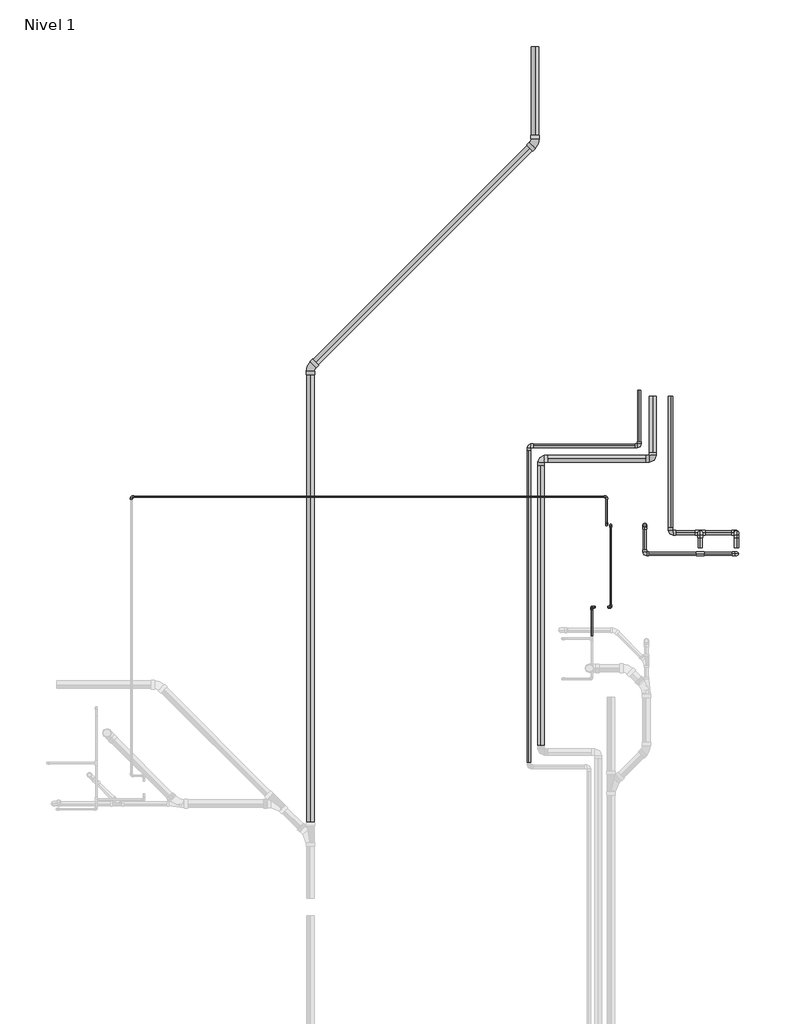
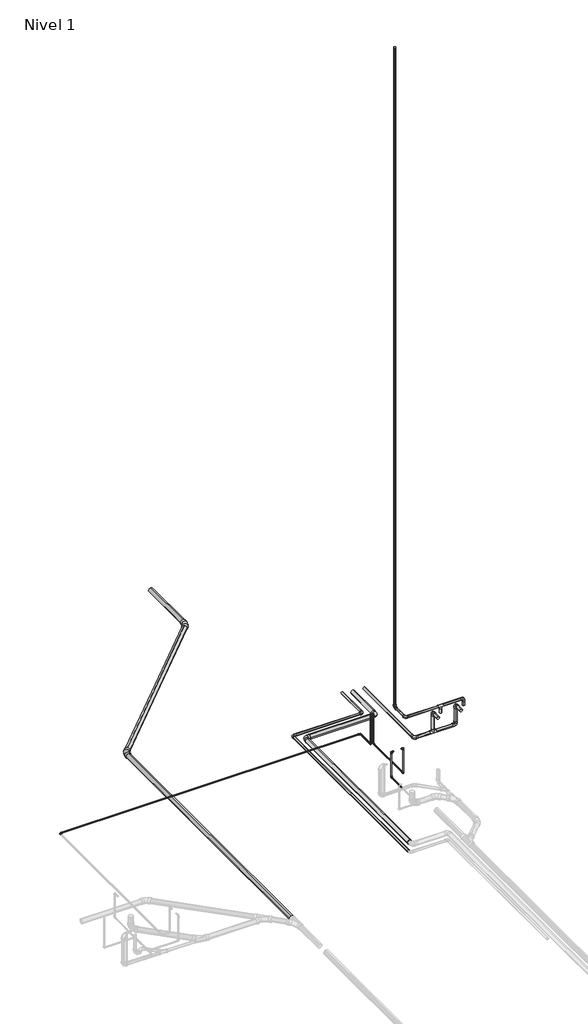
# One storey, part 3 of 3: 32 pipe segments, 23 pipe fittings.
"""IFC4 building model written with IfcOpenShell, lengths in millimetres."""

from ifc_helpers import new_model, si_unit, point, frame, frame_2d, origin, place, context, project, spatial, circle_curve, trimmed, segment, composite_curve, outline, extrude, transform, mapped, element, save
from components import pipe_fitting_be15212e, pipe_fitting_e417bdfe, m_codo_pvc_serie_40_457dd693, m_codo_pvc_serie_40_9ad74631, m_codo_pvc_serie_40_6fb5ae01, m_codo_pvc_serie_40_d13c4332, m_codo_pvc_serie_40_dwv1_9a7ca077

model = new_model("IFC4")

# Units and contexts
model_context = context("Model", 3, world=origin())
ifc_project = project(units=[si_unit("LENGTHUNIT", "METRE", prefix="MILLI")], contexts=[model_context])

# Site, building, storey
site = spatial("IfcSite", under=ifc_project)
building = spatial("IfcBuilding", under=site)
storey = spatial("IfcBuildingStorey", under=building, Name="Nivel 1", Elevation=0.0)

# Pipe fittings
placement = place(None, origin())
pipe_fitting_shape = pipe_fitting_be15212e(model_context)
element("IfcPipeFitting", 1, ObjectType="M_Te - PVC - Serie 40 : Estándar", at=placement, inside=storey, context=model_context, shape_type="MappedRepresentation", body=[
    mapped(pipe_fitting_shape, transform((8230.6425739, 9293.5650289, -300.0), x_axis=(-1.0, 0.0, 0.0), y_axis=(0.0, 0.0, -1.0), z_axis=(0.0, -1.0, 0.0))),
])
pipe_fitting_2_shape = pipe_fitting_e417bdfe(model_context)
element("IfcPipeFitting", 2, ObjectType="M_Te - PVC - Serie 40 : Estándar", at=placement, inside=storey, context=model_context, shape_type="MappedRepresentation", body=[
    mapped(pipe_fitting_2_shape, transform((8230.6425739, 8994.3211489, 500.0), x_axis=(-1.0, 0.0, 0.0), y_axis=(0.0, 0.0, 1.0), z_axis=(0.0, 1.0, 0.0))),
])
m_codo_pvc_serie_40_shape = m_codo_pvc_serie_40_457dd693(model_context)
element("IfcPipeFitting", 3, ObjectType="M_Codo - PVC - Serie 40 : Estándar", at=placement, inside=storey, context=model_context, shape_type="MappedRepresentation", body=[
    mapped(m_codo_pvc_serie_40_shape, transform((5776.38473, 10540.1540755, -300.0), x_axis=(-1.0, 0.0, 0.0), y_axis=(0.0, -1.0, 0.0), z_axis=(0.0, 0.0, 1.0))),
])
element("IfcPipeFitting", 4, ObjectType="M_Codo - PVC - Serie 40 : Estándar", at=placement, inside=storey, context=model_context, shape_type="MappedRepresentation", body=[
    mapped(m_codo_pvc_serie_40_shape, transform((7356.38473, 10540.1540755, -300.0), x_axis=(1.0, 0.0, 0.0), y_axis=(0.0, 1.0, 0.0), z_axis=(0.0, 0.0, 1.0))),
])
element("IfcPipeFitting", 5, ObjectType="M_Codo - PVC - Serie 40 : Estándar", at=placement, inside=storey, context=model_context, shape_type="MappedRepresentation", body=[
    mapped(m_codo_pvc_serie_40_shape, transform((8750.6425739, 8994.3211489, 500.0), x_axis=(0.0, 0.0, 1.0), y_axis=(-1.0, 0.0, 0.0), z_axis=(0.0, -1.0, 0.0))),
])
element("IfcPipeFitting", 6, ObjectType="M_Codo - PVC - Serie 40 : Estándar", at=placement, inside=storey, context=model_context, shape_type="MappedRepresentation", body=[
    mapped(m_codo_pvc_serie_40_shape, transform((7434.7824177, 8994.3211489, 500.0), x_axis=(0.0, -1.0, 0.0), y_axis=(1.0, 0.0, 0.0), z_axis=(0.0, 0.0, 1.0))),
])
element("IfcPipeFitting", 7, ObjectType="M_Codo - PVC - Serie 40 : Estándar", at=placement, inside=storey, context=model_context, shape_type="MappedRepresentation", body=[
    mapped(m_codo_pvc_serie_40_shape, transform((7434.7824177, 9406.2791808, 500.0), x_axis=(0.0, 1.0, 0.0), y_axis=(0.0, 0.0, 1.0), z_axis=(1.0, 0.0, 0.0))),
])
m_codo_pvc_serie_40_2_shape = m_codo_pvc_serie_40_9ad74631(model_context)
element("IfcPipeFitting", 8, ObjectType="M_Codo - PVC - Serie 40 : Estándar", at=placement, inside=storey, context=model_context, shape_type="MappedRepresentation", body=[
    mapped(m_codo_pvc_serie_40_2_shape, transform((6677.8782795, 8229.2883591, -200.0), x_axis=(0.0, 1.0, 0.0), y_axis=(0.0, 0.0, 1.0), z_axis=(1.0, 0.0, 0.0))),
])
element("IfcPipeFitting", 9, ObjectType="M_Codo - PVC - Serie 40 : Estándar", at=placement, inside=storey, context=model_context, shape_type="MappedRepresentation", body=[
    mapped(m_codo_pvc_serie_40_2_shape, transform((6677.8782795, 8229.2883591, 400.0), x_axis=(0.0, 0.0, 1.0), y_axis=(1.0, 0.0, 0.0), z_axis=(0.0, 1.0, 0.0))),
])
element("IfcPipeFitting", 10, ObjectType="M_Codo - PVC - Serie 40 : Estándar", at=placement, inside=storey, context=model_context, shape_type="MappedRepresentation", body=[
    mapped(m_codo_pvc_serie_40_2_shape, transform((6947.8782795, 8229.2883591, 400.0), x_axis=(1.0, 0.0, 0.0), y_axis=(0.0, 0.0, -1.0), z_axis=(0.0, 1.0, 0.0))),
])
element("IfcPipeFitting", 11, ObjectType="M_Codo - PVC - Serie 40 : Estándar", at=placement, inside=storey, context=model_context, shape_type="MappedRepresentation", body=[
    mapped(m_codo_pvc_serie_40_2_shape, transform((6947.8782795, 8229.2883591, -200.0), x_axis=(0.0, 0.0, -1.0), y_axis=(0.0, 1.0, 0.0), z_axis=(1.0, 0.0, 0.0))),
])
element("IfcPipeFitting", 12, ObjectType="M_Codo - PVC - Serie 40 : Estándar", at=placement, inside=storey, context=model_context, shape_type="MappedRepresentation", body=[
    mapped(m_codo_pvc_serie_40_2_shape, transform((80.4324714, 9811.2791808, -200.0), x_axis=(-1.0, 0.0, 0.0), y_axis=(0.0, -1.0, 0.0), z_axis=(0.0, 0.0, 1.0))),
])
element("IfcPipeFitting", 13, ObjectType="M_Codo - PVC - Serie 40 : Estándar", at=placement, inside=storey, context=model_context, shape_type="MappedRepresentation", body=[
    mapped(m_codo_pvc_serie_40_2_shape, transform((6888.634697, 9811.2791808, -200.0), x_axis=(0.0, 1.0, 0.0), y_axis=(-1.0, 0.0, 0.0), z_axis=(0.0, 0.0, 1.0))),
])
element("IfcPipeFitting", 14, ObjectType="M_Codo - PVC - Serie 40 : Estándar", at=placement, inside=storey, context=model_context, shape_type="MappedRepresentation", body=[
    mapped(m_codo_pvc_serie_40_2_shape, transform((6888.634697, 9406.2791808, -200.0), x_axis=(0.0, -1.0, 0.0), y_axis=(0.0, 0.0, 1.0), z_axis=(-1.0, 0.0, 0.0))),
])
element("IfcPipeFitting", 15, ObjectType="M_Codo - PVC - Serie 40 : Estándar", at=placement, inside=storey, context=model_context, shape_type="MappedRepresentation", body=[
    mapped(m_codo_pvc_serie_40_2_shape, transform((6947.8782795, 9409.2883591, -200.0), x_axis=(0.0, 1.0, 0.0), y_axis=(0.0, 0.0, 1.0), z_axis=(1.0, 0.0, 0.0))),
])
m_codo_pvc_serie_40_3_shape = m_codo_pvc_serie_40_6fb5ae01(model_context)
element("IfcPipeFitting", 16, ObjectType="M_Codo - PVC - Serie 40 : Estándar", at=placement, inside=storey, context=model_context, shape_type="MappedRepresentation", body=[
    mapped(m_codo_pvc_serie_40_3_shape, transform((5948.0875801, 10353.5650289, -300.0), x_axis=(-1.0, 0.0, 0.0), y_axis=(0.0, -1.0, 0.0), z_axis=(0.0, 0.0, 1.0))),
])
element("IfcPipeFitting", 17, ObjectType="M_Codo - PVC - Serie 40 : Estándar", at=placement, inside=storey, context=model_context, shape_type="MappedRepresentation", body=[
    mapped(m_codo_pvc_serie_40_3_shape, transform((7548.0875801, 10353.5650289, -300.0), x_axis=(1.0, 0.0, 0.0), y_axis=(0.0, 1.0, 0.0), z_axis=(0.0, 0.0, 1.0))),
])
m_codo_pvc_serie_40_4_shape = m_codo_pvc_serie_40_d13c4332(model_context)
element("IfcPipeFitting", 18, ObjectType="M_Codo - PVC - Serie 40 : Estándar", at=placement, inside=storey, context=model_context, shape_type="MappedRepresentation", body=[
    mapped(m_codo_pvc_serie_40_4_shape, transform((7804.8108187, 9293.5650289, -300.0), x_axis=(0.0, -1.0, 0.0), y_axis=(1.0, 0.0, 0.0), z_axis=(0.0, 0.0, 1.0))),
])
element("IfcPipeFitting", 19, ObjectType="M_Codo - PVC - Serie 40 : Estándar", at=placement, inside=storey, context=model_context, shape_type="MappedRepresentation", body=[
    mapped(m_codo_pvc_serie_40_4_shape, transform((8230.6425739, 9293.5650289, 159.6492087), x_axis=(0.0, 0.0, 1.0), y_axis=(0.0, -1.0, 0.0), z_axis=(1.0, 0.0, 0.0))),
])
element("IfcPipeFitting", 20, ObjectType="M_Codo - PVC - Serie 40 : Estándar", at=placement, inside=storey, context=model_context, shape_type="MappedRepresentation", body=[
    mapped(m_codo_pvc_serie_40_4_shape, transform((8750.6425739, 9293.5650289, -300.0), x_axis=(0.0, 0.0, -1.0), y_axis=(-1.0, 0.0, 0.0), z_axis=(0.0, 1.0, 0.0))),
])
element("IfcPipeFitting", 21, ObjectType="M_Codo - PVC - Serie 40 : Estándar", at=placement, inside=storey, context=model_context, shape_type="MappedRepresentation", body=[
    mapped(m_codo_pvc_serie_40_4_shape, transform((8750.6425739, 9293.5650289, 159.6492087), x_axis=(0.0, 1.0, 0.0), y_axis=(0.0, 0.0, -1.0), z_axis=(-1.0, 0.0, 0.0))),
])
m_codo_pvc_serie_40_dwv1_shape = m_codo_pvc_serie_40_dwv1_9a7ca077(model_context)
element("IfcPipeFitting", 22, ObjectType="M_Codo - PVC - Serie 40 - DWV1 : Estándar 2", at=placement, inside=storey, context=model_context, shape_type="MappedRepresentation", body=[
    mapped(m_codo_pvc_serie_40_dwv1_shape, transform((5863.1438745, 14883.3960274, -300.0), x_axis=(0.7071067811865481, 0.707106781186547, 0.0), y_axis=(-0.707106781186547, 0.7071067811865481, 0.0), z_axis=(0.0, 0.0, 1.0))),
])
element("IfcPipeFitting", 23, ObjectType="M_Codo - PVC - Serie 40 - DWV1 : Estándar 2", at=placement, inside=storey, context=model_context, shape_type="MappedRepresentation", body=[
    mapped(m_codo_pvc_serie_40_dwv1_shape, transform((2645.0, 11665.2521528, -300.0), x_axis=(-0.7071067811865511, -0.707106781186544, 0.0), y_axis=(0.707106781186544, -0.7071067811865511, 0.0), z_axis=(0.0, 0.0, 1.0))),
])

# Pipe segments
element("IfcPipeSegment", 24, ObjectType="Tuberia PVC Agua Fria", at=placement, inside=storey, context=model_context, shape_type="SweptSolid", body=[
    extrude(outline(composite_curve([segment(trimmed(circle_curve(frame_2d((-300.0, 5776.38473)), 23.8125), [point((-300.0, 5800.19723))], [point((-276.1875, 5776.38473))], False, "CARTESIAN"), True, "CONTINUOUS"), segment(trimmed(circle_curve(frame_2d((-300.0, 5776.38473)), 23.8125), [point((-276.1875, 5776.38473))], [point((-300.0, 5752.57223))], False, "CARTESIAN"), True, "CONTINUOUS"), segment(trimmed(circle_curve(frame_2d((-300.0, 5776.38473)), 23.8125), [point((-300.0, 5752.57223))], [point((-323.8125, 5776.38473))], False, "CARTESIAN"), True, "CONTINUOUS"), segment(trimmed(circle_curve(frame_2d((-300.0, 5776.38473)), 23.8125), [point((-323.8125, 5776.38473))], [point((-300.0, 5800.19723))], False, "CARTESIAN"), True, "CONTINUOUS")], self_intersect=False)), frame((0.0, 5999.0820755, 0.0), z_axis=(0.0, 1.0, 0.0), x_axis=(0.0, 0.0, 1.0)), (0.0, 0.0, 1.0), 4482.144),
])
element("IfcPipeSegment", 25, ObjectType="Tuberia PVC Agua Fria", at=placement, inside=storey, context=model_context, shape_type="SweptSolid", body=[
    extrude(outline(composite_curve([segment(trimmed(circle_curve(frame_2d((10540.1540755, -300.0)), 23.8125), [point((10516.3415755, -300.0))], [point((10540.1540755, -276.1875))], False, "CARTESIAN"), True, "CONTINUOUS"), segment(trimmed(circle_curve(frame_2d((10540.1540755, -300.0)), 23.8125), [point((10540.1540755, -276.1875))], [point((10563.9665755, -300.0))], False, "CARTESIAN"), True, "CONTINUOUS"), segment(trimmed(circle_curve(frame_2d((10540.1540755, -300.0)), 23.8125), [point((10563.9665755, -300.0))], [point((10540.1540755, -323.8125))], False, "CARTESIAN"), True, "CONTINUOUS"), segment(trimmed(circle_curve(frame_2d((10540.1540755, -300.0)), 23.8125), [point((10540.1540755, -323.8125))], [point((10516.3415755, -300.0))], False, "CARTESIAN"), True, "CONTINUOUS")], self_intersect=False)), frame((5835.31273, 0.0, 0.0), z_axis=(1.0, 0.0, 0.0), x_axis=(0.0, 1.0, 0.0)), (0.0, 0.0, 1.0), 1462.144),
])
element("IfcPipeSegment", 26, ObjectType="Tuberia PVC Agua Fria", at=placement, inside=storey, context=model_context, shape_type="SweptSolid", body=[
    extrude(outline(composite_curve([segment(trimmed(circle_curve(frame_2d((-300.0, 7356.38473)), 23.8125), [point((-300.0, 7380.19723))], [point((-276.1875, 7356.38473))], False, "CARTESIAN"), True, "CONTINUOUS"), segment(trimmed(circle_curve(frame_2d((-300.0, 7356.38473)), 23.8125), [point((-276.1875, 7356.38473))], [point((-300.0, 7332.57223))], False, "CARTESIAN"), True, "CONTINUOUS"), segment(trimmed(circle_curve(frame_2d((-300.0, 7356.38473)), 23.8125), [point((-300.0, 7332.57223))], [point((-323.8125, 7356.38473))], False, "CARTESIAN"), True, "CONTINUOUS"), segment(trimmed(circle_curve(frame_2d((-300.0, 7356.38473)), 23.8125), [point((-323.8125, 7356.38473))], [point((-300.0, 7380.19723))], False, "CARTESIAN"), True, "CONTINUOUS")], self_intersect=False)), frame((0.0, 10599.0820755, 0.0), z_axis=(0.0, 1.0, 0.0), x_axis=(0.0, 0.0, 1.0)), (0.0, 0.0, 1.0), 741.072),
])
element("IfcPipeSegment", 27, ObjectType="Tuberia PVC Agua Fria", at=placement, inside=storey, context=model_context, shape_type="SweptSolid", body=[
    extrude(outline(composite_curve([segment(trimmed(circle_curve(frame_2d((-200.0, 6677.8782795)), 10.31875), [point((-200.0, 6688.1970295))], [point((-189.68125, 6677.8782795))], False, "CARTESIAN"), True, "CONTINUOUS"), segment(trimmed(circle_curve(frame_2d((-200.0, 6677.8782795)), 10.31875), [point((-189.68125, 6677.8782795))], [point((-200.0, 6667.5595295))], False, "CARTESIAN"), True, "CONTINUOUS"), segment(trimmed(circle_curve(frame_2d((-200.0, 6677.8782795)), 10.31875), [point((-200.0, 6667.5595295))], [point((-210.31875, 6677.8782795))], False, "CARTESIAN"), True, "CONTINUOUS"), segment(trimmed(circle_curve(frame_2d((-200.0, 6677.8782795)), 10.31875), [point((-210.31875, 6677.8782795))], [point((-200.0, 6688.1970295))], False, "CARTESIAN"), True, "CONTINUOUS")], self_intersect=False)), frame((0.0, 7809.2883591, 0.0), z_axis=(0.0, 1.0, 0.0), x_axis=(0.0, 0.0, 1.0)), (0.0, 0.0, 1.0), 386.599),
])
element("IfcPipeSegment", 28, ObjectType="Tuberia PVC Agua Fria", at=placement, inside=storey, context=model_context, shape_type="SweptSolid", body=[
    extrude(outline(composite_curve([segment(trimmed(circle_curve(frame_2d((8229.2883591, 400.0)), 10.31875), [point((8218.9696091, 400.0))], [point((8229.2883591, 410.31875))], False, "CARTESIAN"), True, "CONTINUOUS"), segment(trimmed(circle_curve(frame_2d((8229.2883591, 400.0)), 10.31875), [point((8229.2883591, 410.31875))], [point((8239.6071091, 400.0))], False, "CARTESIAN"), True, "CONTINUOUS"), segment(trimmed(circle_curve(frame_2d((8229.2883591, 400.0)), 10.31875), [point((8239.6071091, 400.0))], [point((8229.2883591, 389.68125))], False, "CARTESIAN"), True, "CONTINUOUS"), segment(trimmed(circle_curve(frame_2d((8229.2883591, 400.0)), 10.31875), [point((8229.2883591, 389.68125))], [point((8218.9696091, 400.0))], False, "CARTESIAN"), True, "CONTINUOUS")], self_intersect=False)), frame((6901.8782795, 0.0, 0.0), z_axis=(1.0, 0.0, 0.0), x_axis=(0.0, 1.0, 0.0)), (0.0, 0.0, 1.0), 12.599),
])
element("IfcPipeSegment", 29, ObjectType="Tuberia PVC Agua Fria", at=placement, inside=storey, context=model_context, shape_type="SweptSolid", body=[
    extrude(outline(composite_curve([segment(trimmed(circle_curve(frame_2d((6677.8782795, 8229.2883591)), 10.31875), [point((6667.5595295, 8229.2883591))], [point((6677.8782795, 8239.6071091))], False, "CARTESIAN"), True, "CONTINUOUS"), segment(trimmed(circle_curve(frame_2d((6677.8782795, 8229.2883591)), 10.31875), [point((6677.8782795, 8239.6071091))], [point((6688.1970295, 8229.2883591))], False, "CARTESIAN"), True, "CONTINUOUS"), segment(trimmed(circle_curve(frame_2d((6677.8782795, 8229.2883591)), 10.31875), [point((6688.1970295, 8229.2883591))], [point((6677.8782795, 8218.9696091))], False, "CARTESIAN"), True, "CONTINUOUS"), segment(trimmed(circle_curve(frame_2d((6677.8782795, 8229.2883591)), 10.31875), [point((6677.8782795, 8218.9696091))], [point((6667.5595295, 8229.2883591))], False, "CARTESIAN"), True, "CONTINUOUS")], self_intersect=False)), frame((0.0, 0.0, -166.599), z_axis=(0.0, 0.0, 1.0), x_axis=(1.0, 0.0, 0.0)), (0.0, 0.0, 1.0), 533.198),
])
element("IfcPipeSegment", 30, ObjectType="Tuberia PVC Agua Fria", at=placement, inside=storey, context=model_context, shape_type="SweptSolid", body=[
    extrude(outline(composite_curve([segment(trimmed(circle_curve(frame_2d((-200.0, 6947.8782795)), 10.31875), [point((-200.0, 6958.1970295))], [point((-189.68125, 6947.8782795))], False, "CARTESIAN"), True, "CONTINUOUS"), segment(trimmed(circle_curve(frame_2d((-200.0, 6947.8782795)), 10.31875), [point((-189.68125, 6947.8782795))], [point((-200.0, 6937.5595295))], False, "CARTESIAN"), True, "CONTINUOUS"), segment(trimmed(circle_curve(frame_2d((-200.0, 6947.8782795)), 10.31875), [point((-200.0, 6937.5595295))], [point((-210.31875, 6947.8782795))], False, "CARTESIAN"), True, "CONTINUOUS"), segment(trimmed(circle_curve(frame_2d((-200.0, 6947.8782795)), 10.31875), [point((-210.31875, 6947.8782795))], [point((-200.0, 6958.1970295))], False, "CARTESIAN"), True, "CONTINUOUS")], self_intersect=False)), frame((0.0, 8262.6893591, 0.0), z_axis=(0.0, 1.0, 0.0), x_axis=(0.0, 0.0, 1.0)), (0.0, 0.0, 1.0), 1113.198),
])
element("IfcPipeSegment", 31, ObjectType="Tuberia PVC Agua Fria", at=placement, inside=storey, context=model_context, shape_type="SweptSolid", body=[
    extrude(outline(composite_curve([segment(trimmed(circle_curve(frame_2d((6947.8782795, 8229.2883591)), 10.31875), [point((6958.1970295, 8229.2883591))], [point((6947.8782795, 8218.9696091))], False, "CARTESIAN"), True, "CONTINUOUS"), segment(trimmed(circle_curve(frame_2d((6947.8782795, 8229.2883591)), 10.31875), [point((6947.8782795, 8218.9696091))], [point((6937.5595295, 8229.2883591))], False, "CARTESIAN"), True, "CONTINUOUS"), segment(trimmed(circle_curve(frame_2d((6947.8782795, 8229.2883591)), 10.31875), [point((6937.5595295, 8229.2883591))], [point((6947.8782795, 8239.6071091))], False, "CARTESIAN"), True, "CONTINUOUS"), segment(trimmed(circle_curve(frame_2d((6947.8782795, 8229.2883591)), 10.31875), [point((6947.8782795, 8239.6071091))], [point((6958.1970295, 8229.2883591))], False, "CARTESIAN"), True, "CONTINUOUS")], self_intersect=False)), frame((0.0, 0.0, -166.599), z_axis=(0.0, 0.0, 1.0), x_axis=(1.0, 0.0, 0.0)), (0.0, 0.0, 1.0), 533.198),
])
element("IfcPipeSegment", 32, ObjectType="Tuberia PVC Agua Fria", at=placement, inside=storey, context=model_context, shape_type="SweptSolid", body=[
    extrude(outline(composite_curve([segment(trimmed(circle_curve(frame_2d((9811.2791808, -200.0)), 10.31875), [point((9821.5979308, -200.0))], [point((9811.2791808, -210.31875))], False, "CARTESIAN"), True, "CONTINUOUS"), segment(trimmed(circle_curve(frame_2d((9811.2791808, -200.0)), 10.31875), [point((9811.2791808, -210.31875))], [point((9800.9604308, -200.0))], False, "CARTESIAN"), True, "CONTINUOUS"), segment(trimmed(circle_curve(frame_2d((9811.2791808, -200.0)), 10.31875), [point((9800.9604308, -200.0))], [point((9811.2791808, -189.68125))], False, "CARTESIAN"), True, "CONTINUOUS"), segment(trimmed(circle_curve(frame_2d((9811.2791808, -200.0)), 10.31875), [point((9811.2791808, -189.68125))], [point((9821.5979308, -200.0))], False, "CARTESIAN"), True, "CONTINUOUS")], self_intersect=False)), frame((113.8334714, 0.0, 0.0), z_axis=(1.0, 0.0, 0.0), x_axis=(0.0, 1.0, 0.0)), (0.0, 0.0, 1.0), 6741.4002256),
])
element("IfcPipeSegment", 33, ObjectType="Tuberia PVC Agua Fria", at=placement, inside=storey, context=model_context, shape_type="SweptSolid", body=[
    extrude(outline(composite_curve([segment(trimmed(circle_curve(frame_2d((-200.0, 6888.634697)), 10.31875), [point((-200.0, 6878.315947))], [point((-210.31875, 6888.634697))], False, "CARTESIAN"), True, "CONTINUOUS"), segment(trimmed(circle_curve(frame_2d((-200.0, 6888.634697)), 10.31875), [point((-210.31875, 6888.634697))], [point((-200.0, 6898.953447))], False, "CARTESIAN"), True, "CONTINUOUS"), segment(trimmed(circle_curve(frame_2d((-200.0, 6888.634697)), 10.31875), [point((-200.0, 6898.953447))], [point((-189.68125, 6888.634697))], False, "CARTESIAN"), True, "CONTINUOUS"), segment(trimmed(circle_curve(frame_2d((-200.0, 6888.634697)), 10.31875), [point((-189.68125, 6888.634697))], [point((-200.0, 6878.315947))], False, "CARTESIAN"), True, "CONTINUOUS")], self_intersect=False)), frame((0.0, 9439.6801808, 0.0), z_axis=(0.0, 1.0, 0.0), x_axis=(0.0, 0.0, 1.0)), (0.0, 0.0, 1.0), 338.198),
])
element("IfcPipeSegment", 34, ObjectType="Tuberia PVC Agua Fria", at=placement, inside=storey, context=model_context, shape_type="SweptSolid", body=[
    extrude(outline(composite_curve([segment(trimmed(circle_curve(frame_2d((6888.634697, 9406.2791808)), 10.31875), [point((6878.315947, 9406.2791808))], [point((6888.634697, 9416.5979308))], False, "CARTESIAN"), True, "CONTINUOUS"), segment(trimmed(circle_curve(frame_2d((6888.634697, 9406.2791808)), 10.31875), [point((6888.634697, 9416.5979308))], [point((6898.953447, 9406.2791808))], False, "CARTESIAN"), True, "CONTINUOUS"), segment(trimmed(circle_curve(frame_2d((6888.634697, 9406.2791808)), 10.31875), [point((6898.953447, 9406.2791808))], [point((6888.634697, 9395.9604308))], False, "CARTESIAN"), True, "CONTINUOUS"), segment(trimmed(circle_curve(frame_2d((6888.634697, 9406.2791808)), 10.31875), [point((6888.634697, 9395.9604308))], [point((6878.315947, 9406.2791808))], False, "CARTESIAN"), True, "CONTINUOUS")], self_intersect=False)), frame((0.0, 0.0, -166.599), z_axis=(0.0, 0.0, 1.0), x_axis=(1.0, 0.0, 0.0)), (0.0, 0.0, 1.0), 674.0983614),
])
element("IfcPipeSegment", 35, ObjectType="Tuberia PVC Agua Fria", at=placement, inside=storey, context=model_context, shape_type="SweptSolid", body=[
    extrude(outline(composite_curve([segment(trimmed(circle_curve(frame_2d((6947.8782795, 9409.2883591)), 10.31875), [point((6937.5595295, 9409.2883591))], [point((6947.8782795, 9419.6071091))], False, "CARTESIAN"), True, "CONTINUOUS"), segment(trimmed(circle_curve(frame_2d((6947.8782795, 9409.2883591)), 10.31875), [point((6947.8782795, 9419.6071091))], [point((6958.1970295, 9409.2883591))], False, "CARTESIAN"), True, "CONTINUOUS"), segment(trimmed(circle_curve(frame_2d((6947.8782795, 9409.2883591)), 10.31875), [point((6958.1970295, 9409.2883591))], [point((6947.8782795, 9398.9696091))], False, "CARTESIAN"), True, "CONTINUOUS"), segment(trimmed(circle_curve(frame_2d((6947.8782795, 9409.2883591)), 10.31875), [point((6947.8782795, 9398.9696091))], [point((6937.5595295, 9409.2883591))], False, "CARTESIAN"), True, "CONTINUOUS")], self_intersect=False)), frame((0.0, 0.0, -166.599), z_axis=(0.0, 0.0, 1.0), x_axis=(1.0, 0.0, 0.0)), (0.0, 0.0, 1.0), 674.0983614),
])
element("IfcPipeSegment", 36, ObjectType="Tuberia PVC Agua Fria", at=placement, inside=storey, context=model_context, shape_type="SweptSolid", body=[
    extrude(outline(composite_curve([segment(trimmed(circle_curve(frame_2d((-300.0, 5948.0875801)), 49.2125), [point((-300.0, 5997.3000801))], [point((-250.7875, 5948.0875801))], False, "CARTESIAN"), True, "CONTINUOUS"), segment(trimmed(circle_curve(frame_2d((-300.0, 5948.0875801)), 49.2125), [point((-250.7875, 5948.0875801))], [point((-300.0, 5898.8750801))], False, "CARTESIAN"), True, "CONTINUOUS"), segment(trimmed(circle_curve(frame_2d((-300.0, 5948.0875801)), 49.2125), [point((-300.0, 5898.8750801))], [point((-349.2125, 5948.0875801))], False, "CARTESIAN"), True, "CONTINUOUS"), segment(trimmed(circle_curve(frame_2d((-300.0, 5948.0875801)), 49.2125), [point((-349.2125, 5948.0875801))], [point((-300.0, 5997.3000801))], False, "CARTESIAN"), True, "CONTINUOUS")], self_intersect=False)), frame((0.0, 6250.7835289, 0.0), z_axis=(0.0, 1.0, 0.0), x_axis=(0.0, 0.0, 1.0)), (0.0, 0.0, 1.0), 4005.563),
])
element("IfcPipeSegment", 37, ObjectType="Tuberia PVC Agua Fria", at=placement, inside=storey, context=model_context, shape_type="SweptSolid", body=[
    extrude(outline(composite_curve([segment(trimmed(circle_curve(frame_2d((10353.5650289, -300.0)), 49.2125), [point((10304.3525289, -300.0))], [point((10353.5650289, -250.7875))], False, "CARTESIAN"), True, "CONTINUOUS"), segment(trimmed(circle_curve(frame_2d((10353.5650289, -300.0)), 49.2125), [point((10353.5650289, -250.7875))], [point((10402.7775289, -300.0))], False, "CARTESIAN"), True, "CONTINUOUS"), segment(trimmed(circle_curve(frame_2d((10353.5650289, -300.0)), 49.2125), [point((10402.7775289, -300.0))], [point((10353.5650289, -349.2125))], False, "CARTESIAN"), True, "CONTINUOUS"), segment(trimmed(circle_curve(frame_2d((10353.5650289, -300.0)), 49.2125), [point((10353.5650289, -349.2125))], [point((10304.3525289, -300.0))], False, "CARTESIAN"), True, "CONTINUOUS")], self_intersect=False)), frame((6045.3060801, 0.0, 0.0), z_axis=(1.0, 0.0, 0.0), x_axis=(0.0, 1.0, 0.0)), (0.0, 0.0, 1.0), 1405.563),
])
element("IfcPipeSegment", 38, ObjectType="Tuberia PVC Agua Fria", at=placement, inside=storey, context=model_context, shape_type="SweptSolid", body=[
    extrude(outline(composite_curve([segment(trimmed(circle_curve(frame_2d((-300.0, 7548.0875801)), 49.2125), [point((-300.0, 7597.3000801))], [point((-250.7875, 7548.0875801))], False, "CARTESIAN"), True, "CONTINUOUS"), segment(trimmed(circle_curve(frame_2d((-300.0, 7548.0875801)), 49.2125), [point((-250.7875, 7548.0875801))], [point((-300.0, 7498.8750801))], False, "CARTESIAN"), True, "CONTINUOUS"), segment(trimmed(circle_curve(frame_2d((-300.0, 7548.0875801)), 49.2125), [point((-300.0, 7498.8750801))], [point((-349.2125, 7548.0875801))], False, "CARTESIAN"), True, "CONTINUOUS"), segment(trimmed(circle_curve(frame_2d((-300.0, 7548.0875801)), 49.2125), [point((-349.2125, 7548.0875801))], [point((-300.0, 7597.3000801))], False, "CARTESIAN"), True, "CONTINUOUS")], self_intersect=False)), frame((0.0, 10450.7835289, 0.0), z_axis=(0.0, 1.0, 0.0), x_axis=(0.0, 0.0, 1.0)), (0.0, 0.0, 1.0), 802.7815),
])
element("IfcPipeSegment", 39, ObjectType="Tuberia PVC Agua Fria", at=placement, inside=storey, context=model_context, shape_type="SweptSolid", body=[
    extrude(outline(composite_curve([segment(trimmed(circle_curve(frame_2d((8229.2883591, 400.0)), 10.31875), [point((8218.9696091, 400.0))], [point((8229.2883591, 410.31875))], False, "CARTESIAN"), True, "CONTINUOUS"), segment(trimmed(circle_curve(frame_2d((8229.2883591, 400.0)), 10.31875), [point((8229.2883591, 410.31875))], [point((8239.6071091, 400.0))], False, "CARTESIAN"), True, "CONTINUOUS"), segment(trimmed(circle_curve(frame_2d((8229.2883591, 400.0)), 10.31875), [point((8239.6071091, 400.0))], [point((8229.2883591, 389.68125))], False, "CARTESIAN"), True, "CONTINUOUS"), segment(trimmed(circle_curve(frame_2d((8229.2883591, 400.0)), 10.31875), [point((8229.2883591, 389.68125))], [point((8218.9696091, 400.0))], False, "CARTESIAN"), True, "CONTINUOUS")], self_intersect=False)), frame((6711.2792795, 0.0, 0.0), z_axis=(1.0, 0.0, 0.0), x_axis=(0.0, 1.0, 0.0)), (0.0, 0.0, 1.0), 12.599),
])
element("IfcPipeSegment", 40, ObjectType="Tuberia F°G° Agua Fria", at=placement, inside=storey, context=model_context, shape_type="SweptSolid", body=[
    extrude(outline(composite_curve([segment(trimmed(circle_curve(frame_2d((159.6492087, 8230.6425739)), 30.1625), [point((159.6492087, 8260.8050739))], [point((189.8117087, 8230.6425739))], False, "CARTESIAN"), True, "CONTINUOUS"), segment(trimmed(circle_curve(frame_2d((159.6492087, 8230.6425739)), 30.1625), [point((189.8117087, 8230.6425739))], [point((159.6492087, 8200.4800739))], False, "CARTESIAN"), True, "CONTINUOUS"), segment(trimmed(circle_curve(frame_2d((159.6492087, 8230.6425739)), 30.1625), [point((159.6492087, 8200.4800739))], [point((129.4867087, 8230.6425739))], False, "CARTESIAN"), True, "CONTINUOUS"), segment(trimmed(circle_curve(frame_2d((159.6492087, 8230.6425739)), 30.1625), [point((129.4867087, 8230.6425739))], [point((159.6492087, 8260.8050739))], False, "CARTESIAN"), True, "CONTINUOUS")], self_intersect=False)), frame((0.0, 9077.6465707, 0.0), z_axis=(0.0, 1.0, 0.0), x_axis=(0.0, 0.0, 1.0)), (0.0, 0.0, 1.0), 144.2269583),
])
element("IfcPipeSegment", 41, ObjectType="Tuberia F°G° Agua Fria", at=placement, inside=storey, context=model_context, shape_type="SweptSolid", body=[
    extrude(outline(composite_curve([segment(trimmed(circle_curve(frame_2d((-300.0, 7804.8108187)), 30.1625), [point((-300.0, 7774.6483187))], [point((-330.1625, 7804.8108187))], False, "CARTESIAN"), True, "CONTINUOUS"), segment(trimmed(circle_curve(frame_2d((-300.0, 7804.8108187)), 30.1625), [point((-330.1625, 7804.8108187))], [point((-300.0, 7834.9733187))], False, "CARTESIAN"), True, "CONTINUOUS"), segment(trimmed(circle_curve(frame_2d((-300.0, 7804.8108187)), 30.1625), [point((-300.0, 7834.9733187))], [point((-269.8375, 7804.8108187))], False, "CARTESIAN"), True, "CONTINUOUS"), segment(trimmed(circle_curve(frame_2d((-300.0, 7804.8108187)), 30.1625), [point((-269.8375, 7804.8108187))], [point((-300.0, 7774.6483187))], False, "CARTESIAN"), True, "CONTINUOUS")], self_intersect=False)), frame((0.0, 9365.2565289, 0.0), z_axis=(0.0, 1.0, 0.0), x_axis=(0.0, 0.0, 1.0)), (0.0, 0.0, 1.0), 1888.3085),
])
element("IfcPipeSegment", 42, ObjectType="Tuberia F°G° Agua Fria", at=placement, inside=storey, context=model_context, shape_type="SweptSolid", body=[
    extrude(outline(composite_curve([segment(trimmed(circle_curve(frame_2d((9293.5650289, -300.0)), 30.1625), [point((9263.4025289, -300.0))], [point((9293.5650289, -269.8375))], False, "CARTESIAN"), True, "CONTINUOUS"), segment(trimmed(circle_curve(frame_2d((9293.5650289, -300.0)), 30.1625), [point((9293.5650289, -269.8375))], [point((9323.7275289, -300.0))], False, "CARTESIAN"), True, "CONTINUOUS"), segment(trimmed(circle_curve(frame_2d((9293.5650289, -300.0)), 30.1625), [point((9323.7275289, -300.0))], [point((9293.5650289, -330.1625))], False, "CARTESIAN"), True, "CONTINUOUS"), segment(trimmed(circle_curve(frame_2d((9293.5650289, -300.0)), 30.1625), [point((9293.5650289, -330.1625))], [point((9263.4025289, -300.0))], False, "CARTESIAN"), True, "CONTINUOUS")], self_intersect=False)), frame((8299.2027302, 0.0, 0.0), z_axis=(1.0, 0.0, 0.0), x_axis=(0.0, 1.0, 0.0)), (0.0, 0.0, 1.0), 379.7483438),
])
element("IfcPipeSegment", 43, ObjectType="Tuberia F°G° Agua Fria", at=placement, inside=storey, context=model_context, shape_type="SweptSolid", body=[
    extrude(outline(composite_curve([segment(trimmed(circle_curve(frame_2d((8230.6425739, 9293.5650289)), 30.1625), [point((8200.4800739, 9293.5650289))], [point((8230.6425739, 9323.7275289))], False, "CARTESIAN"), True, "CONTINUOUS"), segment(trimmed(circle_curve(frame_2d((8230.6425739, 9293.5650289)), 30.1625), [point((8230.6425739, 9323.7275289))], [point((8260.8050739, 9293.5650289))], False, "CARTESIAN"), True, "CONTINUOUS"), segment(trimmed(circle_curve(frame_2d((8230.6425739, 9293.5650289)), 30.1625), [point((8260.8050739, 9293.5650289))], [point((8230.6425739, 9263.4025289))], False, "CARTESIAN"), True, "CONTINUOUS"), segment(trimmed(circle_curve(frame_2d((8230.6425739, 9293.5650289)), 30.1625), [point((8230.6425739, 9263.4025289))], [point((8200.4800739, 9293.5650289))], False, "CARTESIAN"), True, "CONTINUOUS")], self_intersect=False)), frame((0.0, 0.0, -231.4398437), z_axis=(0.0, 0.0, 1.0), x_axis=(1.0, 0.0, 0.0)), (0.0, 0.0, 1.0), 319.3975525),
])
element("IfcPipeSegment", 44, ObjectType="Tuberia F°G° Agua Fria", at=placement, inside=storey, context=model_context, shape_type="SweptSolid", body=[
    extrude(outline(composite_curve([segment(trimmed(circle_curve(frame_2d((9293.5650289, -300.0)), 30.1625), [point((9263.4025289, -300.0))], [point((9293.5650289, -269.8375))], False, "CARTESIAN"), True, "CONTINUOUS"), segment(trimmed(circle_curve(frame_2d((9293.5650289, -300.0)), 30.1625), [point((9293.5650289, -269.8375))], [point((9323.7275289, -300.0))], False, "CARTESIAN"), True, "CONTINUOUS"), segment(trimmed(circle_curve(frame_2d((9293.5650289, -300.0)), 30.1625), [point((9323.7275289, -300.0))], [point((9293.5650289, -330.1625))], False, "CARTESIAN"), True, "CONTINUOUS"), segment(trimmed(circle_curve(frame_2d((9293.5650289, -300.0)), 30.1625), [point((9293.5650289, -330.1625))], [point((9263.4025289, -300.0))], False, "CARTESIAN"), True, "CONTINUOUS")], self_intersect=False)), frame((7876.5023187, 0.0, 0.0), z_axis=(1.0, 0.0, 0.0), x_axis=(0.0, 1.0, 0.0)), (0.0, 0.0, 1.0), 285.580099),
])
element("IfcPipeSegment", 45, ObjectType="Tuberia F°G° Agua Fria", at=placement, inside=storey, context=model_context, shape_type="SweptSolid", body=[
    extrude(outline(composite_curve([segment(trimmed(circle_curve(frame_2d((8750.6425739, 9293.5650289)), 30.1625), [point((8780.8050739, 9293.5650289))], [point((8750.6425739, 9263.4025289))], False, "CARTESIAN"), True, "CONTINUOUS"), segment(trimmed(circle_curve(frame_2d((8750.6425739, 9293.5650289)), 30.1625), [point((8750.6425739, 9263.4025289))], [point((8720.4800739, 9293.5650289))], False, "CARTESIAN"), True, "CONTINUOUS"), segment(trimmed(circle_curve(frame_2d((8750.6425739, 9293.5650289)), 30.1625), [point((8720.4800739, 9293.5650289))], [point((8750.6425739, 9323.7275289))], False, "CARTESIAN"), True, "CONTINUOUS"), segment(trimmed(circle_curve(frame_2d((8750.6425739, 9293.5650289)), 30.1625), [point((8750.6425739, 9323.7275289))], [point((8780.8050739, 9293.5650289))], False, "CARTESIAN"), True, "CONTINUOUS")], self_intersect=False)), frame((0.0, 0.0, -228.3085), z_axis=(0.0, 0.0, 1.0), x_axis=(1.0, 0.0, 0.0)), (0.0, 0.0, 1.0), 316.2662087),
])
element("IfcPipeSegment", 46, ObjectType="Tuberia F°G° Agua Fria", at=placement, inside=storey, context=model_context, shape_type="SweptSolid", body=[
    extrude(outline(composite_curve([segment(trimmed(circle_curve(frame_2d((159.6492087, 8750.6425739)), 30.1625), [point((159.6492087, 8780.8050739))], [point((189.8117087, 8750.6425739))], False, "CARTESIAN"), True, "CONTINUOUS"), segment(trimmed(circle_curve(frame_2d((159.6492087, 8750.6425739)), 30.1625), [point((189.8117087, 8750.6425739))], [point((159.6492087, 8720.4800739))], False, "CARTESIAN"), True, "CONTINUOUS"), segment(trimmed(circle_curve(frame_2d((159.6492087, 8750.6425739)), 30.1625), [point((159.6492087, 8720.4800739))], [point((129.4867087, 8750.6425739))], False, "CARTESIAN"), True, "CONTINUOUS"), segment(trimmed(circle_curve(frame_2d((159.6492087, 8750.6425739)), 30.1625), [point((129.4867087, 8750.6425739))], [point((159.6492087, 8780.8050739))], False, "CARTESIAN"), True, "CONTINUOUS")], self_intersect=False)), frame((0.0, 9077.6465707, 0.0), z_axis=(0.0, 1.0, 0.0), x_axis=(0.0, 0.0, 1.0)), (0.0, 0.0, 1.0), 144.2269583),
])
element("IfcPipeSegment", 47, ObjectType="Tuberia F°G° Agua Fria", at=placement, inside=storey, context=model_context, shape_type="SweptSolid", body=[
    extrude(outline(composite_curve([segment(trimmed(circle_curve(frame_2d((8230.6425739, 8994.3211489)), 23.8125), [point((8206.8300739, 8994.3211489))], [point((8230.6425739, 9018.1336489))], False, "CARTESIAN"), True, "CONTINUOUS"), segment(trimmed(circle_curve(frame_2d((8230.6425739, 8994.3211489)), 23.8125), [point((8230.6425739, 9018.1336489))], [point((8254.4550739, 8994.3211489))], False, "CARTESIAN"), True, "CONTINUOUS"), segment(trimmed(circle_curve(frame_2d((8230.6425739, 8994.3211489)), 23.8125), [point((8254.4550739, 8994.3211489))], [point((8230.6425739, 8970.5086489))], False, "CARTESIAN"), True, "CONTINUOUS"), segment(trimmed(circle_curve(frame_2d((8230.6425739, 8994.3211489)), 23.8125), [point((8230.6425739, 8970.5086489))], [point((8206.8300739, 8994.3211489))], False, "CARTESIAN"), True, "CONTINUOUS")], self_intersect=False)), frame((0.0, 0.0, 338.8535102), z_axis=(0.0, 0.0, 1.0), x_axis=(1.0, 0.0, 0.0)), (0.0, 0.0, 1.0), 105.2863336),
])
element("IfcPipeSegment", 48, ObjectType="Tuberia F°G° Agua Fria", at=placement, inside=storey, context=model_context, shape_type="SweptSolid", body=[
    extrude(outline(composite_curve([segment(trimmed(circle_curve(frame_2d((8994.3211489, 500.0)), 23.8125), [point((9018.1336489, 500.0))], [point((8994.3211489, 476.1875))], False, "CARTESIAN"), True, "CONTINUOUS"), segment(trimmed(circle_curve(frame_2d((8994.3211489, 500.0)), 23.8125), [point((8994.3211489, 476.1875))], [point((8970.5086489, 500.0))], False, "CARTESIAN"), True, "CONTINUOUS"), segment(trimmed(circle_curve(frame_2d((8994.3211489, 500.0)), 23.8125), [point((8970.5086489, 500.0))], [point((8994.3211489, 523.8125))], False, "CARTESIAN"), True, "CONTINUOUS"), segment(trimmed(circle_curve(frame_2d((8994.3211489, 500.0)), 23.8125), [point((8994.3211489, 523.8125))], [point((9018.1336489, 500.0))], False, "CARTESIAN"), True, "CONTINUOUS")], self_intersect=False)), frame((7493.7104177, 0.0, 0.0), z_axis=(1.0, 0.0, 0.0), x_axis=(0.0, 1.0, 0.0)), (0.0, 0.0, 1.0), 681.072),
])
element("IfcPipeSegment", 49, ObjectType="Tuberia F°G° Agua Fria", at=placement, inside=storey, context=model_context, shape_type="SweptSolid", body=[
    extrude(outline(composite_curve([segment(trimmed(circle_curve(frame_2d((8750.6425739, 8994.3211489)), 23.8125), [point((8726.8300739, 8994.3211489))], [point((8750.6425739, 9018.1336489))], False, "CARTESIAN"), True, "CONTINUOUS"), segment(trimmed(circle_curve(frame_2d((8750.6425739, 8994.3211489)), 23.8125), [point((8750.6425739, 9018.1336489))], [point((8774.4550739, 8994.3211489))], False, "CARTESIAN"), True, "CONTINUOUS"), segment(trimmed(circle_curve(frame_2d((8750.6425739, 8994.3211489)), 23.8125), [point((8774.4550739, 8994.3211489))], [point((8750.6425739, 8970.5086489))], False, "CARTESIAN"), True, "CONTINUOUS"), segment(trimmed(circle_curve(frame_2d((8750.6425739, 8994.3211489)), 23.8125), [point((8750.6425739, 8970.5086489))], [point((8726.8300739, 8994.3211489))], False, "CARTESIAN"), True, "CONTINUOUS")], self_intersect=False)), frame((0.0, 0.0, 338.8535102), z_axis=(0.0, 0.0, 1.0), x_axis=(1.0, 0.0, 0.0)), (0.0, 0.0, 1.0), 102.2184898),
])
element("IfcPipeSegment", 50, ObjectType="Tuberia F°G° Agua Fria", at=placement, inside=storey, context=model_context, shape_type="SweptSolid", body=[
    extrude(outline(composite_curve([segment(trimmed(circle_curve(frame_2d((8994.3211489, 500.0)), 23.8125), [point((9018.1336489, 500.0))], [point((8994.3211489, 476.1875))], False, "CARTESIAN"), True, "CONTINUOUS"), segment(trimmed(circle_curve(frame_2d((8994.3211489, 500.0)), 23.8125), [point((8994.3211489, 476.1875))], [point((8970.5086489, 500.0))], False, "CARTESIAN"), True, "CONTINUOUS"), segment(trimmed(circle_curve(frame_2d((8994.3211489, 500.0)), 23.8125), [point((8970.5086489, 500.0))], [point((8994.3211489, 523.8125))], False, "CARTESIAN"), True, "CONTINUOUS"), segment(trimmed(circle_curve(frame_2d((8994.3211489, 500.0)), 23.8125), [point((8994.3211489, 523.8125))], [point((9018.1336489, 500.0))], False, "CARTESIAN"), True, "CONTINUOUS")], self_intersect=False)), frame((8286.5027302, 0.0, 0.0), z_axis=(1.0, 0.0, 0.0), x_axis=(0.0, 1.0, 0.0)), (0.0, 0.0, 1.0), 405.2118438),
])
element("IfcPipeSegment", 51, ObjectType="Tuberia F°G° Agua Fria", at=placement, inside=storey, context=model_context, shape_type="SweptSolid", body=[
    extrude(outline(composite_curve([segment(trimmed(circle_curve(frame_2d((500.0, 7434.7824177)), 23.8125), [point((500.0, 7458.5949177))], [point((523.8125, 7434.7824177))], False, "CARTESIAN"), True, "CONTINUOUS"), segment(trimmed(circle_curve(frame_2d((500.0, 7434.7824177)), 23.8125), [point((523.8125, 7434.7824177))], [point((500.0, 7410.9699177))], False, "CARTESIAN"), True, "CONTINUOUS"), segment(trimmed(circle_curve(frame_2d((500.0, 7434.7824177)), 23.8125), [point((500.0, 7410.9699177))], [point((476.1875, 7434.7824177))], False, "CARTESIAN"), True, "CONTINUOUS"), segment(trimmed(circle_curve(frame_2d((500.0, 7434.7824177)), 23.8125), [point((476.1875, 7434.7824177))], [point((500.0, 7458.5949177))], False, "CARTESIAN"), True, "CONTINUOUS")], self_intersect=False)), frame((0.0, 9053.2491489, 0.0), z_axis=(0.0, 1.0, 0.0), x_axis=(0.0, 0.0, 1.0)), (0.0, 0.0, 1.0), 294.102032),
])
element("IfcPipeSegment", 52, ObjectType="Tuberia F°G° Agua Fria", at=placement, inside=storey, context=model_context, shape_type="SweptSolid", body=[
    extrude(outline(composite_curve([segment(trimmed(circle_curve(frame_2d((7434.7824177, 9406.2791808)), 23.8125), [point((7410.9699177, 9406.2791808))], [point((7434.7824177, 9430.0916808))], False, "CARTESIAN"), True, "CONTINUOUS"), segment(trimmed(circle_curve(frame_2d((7434.7824177, 9406.2791808)), 23.8125), [point((7434.7824177, 9430.0916808))], [point((7458.5949177, 9406.2791808))], False, "CARTESIAN"), True, "CONTINUOUS"), segment(trimmed(circle_curve(frame_2d((7434.7824177, 9406.2791808)), 23.8125), [point((7458.5949177, 9406.2791808))], [point((7434.7824177, 9382.4666808))], False, "CARTESIAN"), True, "CONTINUOUS"), segment(trimmed(circle_curve(frame_2d((7434.7824177, 9406.2791808)), 23.8125), [point((7434.7824177, 9382.4666808))], [point((7410.9699177, 9406.2791808))], False, "CARTESIAN"), True, "CONTINUOUS")], self_intersect=False)), frame((0.0, 0.0, 558.928), z_axis=(0.0, 0.0, 1.0), x_axis=(1.0, 0.0, 0.0)), (0.0, 0.0, 1.0), 15741.072),
])
element("IfcPipeSegment", 53, ObjectType="Tuberia PVC Sanitario", at=placement, inside=storey, context=model_context, shape_type="SweptSolid", body=[
    extrude(outline(composite_curve([segment(trimmed(circle_curve(frame_2d((-300.0, 5863.1438745)), 52.3875), [point((-300.0, 5810.7563745))], [point((-352.3875, 5863.1438745))], False, "CARTESIAN"), True, "CONTINUOUS"), segment(trimmed(circle_curve(frame_2d((-300.0, 5863.1438745)), 52.3875), [point((-352.3875, 5863.1438745))], [point((-300.0, 5915.5313745))], False, "CARTESIAN"), True, "CONTINUOUS"), segment(trimmed(circle_curve(frame_2d((-300.0, 5863.1438745)), 52.3875), [point((-300.0, 5915.5313745))], [point((-247.6125, 5863.1438745))], False, "CARTESIAN"), True, "CONTINUOUS"), segment(trimmed(circle_curve(frame_2d((-300.0, 5863.1438745)), 52.3875), [point((-247.6125, 5863.1438745))], [point((-300.0, 5810.7563745))], False, "CARTESIAN"), True, "CONTINUOUS")], self_intersect=False)), frame((0.0, 14990.5602149, 0.0), z_axis=(0.0, 1.0, 0.0), x_axis=(0.0, 0.0, 1.0)), (0.0, 0.0, 1.0), 1271.36575),
])
element("IfcPipeSegment", 54, ObjectType="Tuberia PVC Sanitario", at=placement, inside=storey, context=model_context, shape_type="SweptSolid", body=[
    extrude(outline(composite_curve([segment(trimmed(circle_curve(frame_2d((0.0, -52.3875)), 52.3875), [point((-52.3875, -52.3875))], [point((0.0, 0.0))], False, "CARTESIAN"), True, "CONTINUOUS"), segment(trimmed(circle_curve(frame_2d((0.0, -52.3875)), 52.3875), [point((0.0, 0.0))], [point((52.3875, -52.3875))], False, "CARTESIAN"), True, "CONTINUOUS"), segment(trimmed(circle_curve(frame_2d((0.0, -52.3875)), 52.3875), [point((52.3875, -52.3875))], [point((0.0, -104.775))], False, "CARTESIAN"), True, "CONTINUOUS"), segment(trimmed(circle_curve(frame_2d((0.0, -52.3875)), 52.3875), [point((0.0, -104.775))], [point((-52.3875, -52.3875))], False, "CARTESIAN"), True, "CONTINUOUS")], self_intersect=False)), frame((2720.7765237, 11741.0286765, -352.3875), z_axis=(0.707106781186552, 0.7071067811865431, 0.0), x_axis=(0.7071067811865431, -0.707106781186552, 0.0)), (0.0, 0.0, 1.0), 4336.814338),
])
element("IfcPipeSegment", 55, ObjectType="Tuberia PVC Sanitario", at=placement, inside=storey, context=model_context, shape_type="SweptSolid", body=[
    extrude(outline(composite_curve([segment(trimmed(circle_curve(frame_2d((-300.0, 2645.0)), 52.3875), [point((-300.0, 2592.6125))], [point((-352.3875, 2645.0))], False, "CARTESIAN"), True, "CONTINUOUS"), segment(trimmed(circle_curve(frame_2d((-300.0, 2645.0)), 52.3875), [point((-352.3875, 2645.0))], [point((-300.0, 2697.3875))], False, "CARTESIAN"), True, "CONTINUOUS"), segment(trimmed(circle_curve(frame_2d((-300.0, 2645.0)), 52.3875), [point((-300.0, 2697.3875))], [point((-247.6125, 2645.0))], False, "CARTESIAN"), True, "CONTINUOUS"), segment(trimmed(circle_curve(frame_2d((-300.0, 2645.0)), 52.3875), [point((-247.6125, 2645.0))], [point((-300.0, 2592.6125))], False, "CARTESIAN"), True, "CONTINUOUS")], self_intersect=False)), frame((0.0, 5146.8890546, 0.0), z_axis=(0.0, 1.0, 0.0), x_axis=(0.0, 0.0, 1.0)), (0.0, 0.0, 1.0), 6411.1989107),
])

save(model, "model.ifc")
